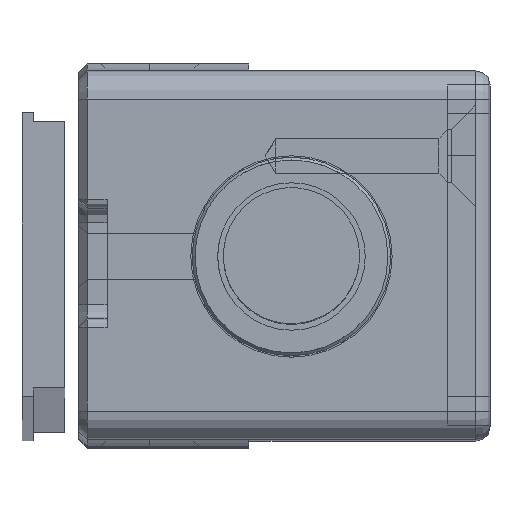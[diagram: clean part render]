
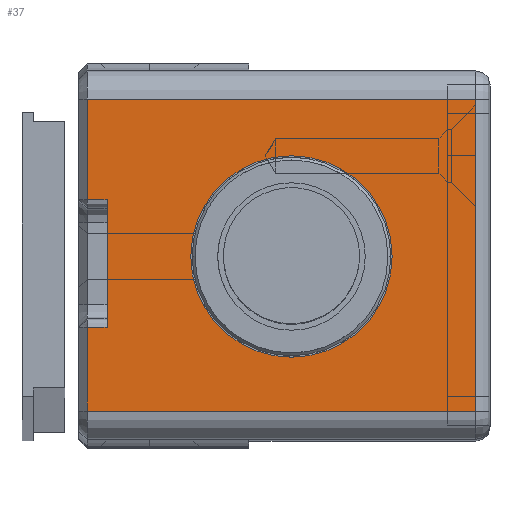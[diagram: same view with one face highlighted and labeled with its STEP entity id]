
A CAD part, top view. The second image highlights one B-rep face of the part: STEP entity #37.
In plain terms, the highlighted planar face has unit normal (0, 0, 1) as drawn and (-1, 0, 0) by its records, which use the part's own axes.
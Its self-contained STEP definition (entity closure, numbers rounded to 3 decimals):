
#37 = ADVANCED_FACE ( 'NONE', ( #8403, #148 ), #6942, .F. ) ;
#148 = FACE_OUTER_BOUND ( 'NONE', #1977, .T. ) ;
#432 = DIRECTION ( 'NONE',  ( 0., -1., 0. ) ) ;
#728 = ORIENTED_EDGE ( 'NONE', *, *, #4757, .F. ) ;
#749 = LINE ( 'NONE', #12703, #3853 ) ;
#916 = CARTESIAN_POINT ( 'NONE',  ( 0.689, 1.95, -6.25 ) ) ;
#1028 = VERTEX_POINT ( 'NONE', #7812 ) ;
#1350 = VECTOR ( 'NONE', #432, 1000. ) ;
#1550 = EDGE_CURVE ( 'NONE', #11149, #19234, #19034, .T. ) ;
#1649 = EDGE_CURVE ( 'NONE', #2263, #11149, #4012, .T. ) ;
#1756 = CARTESIAN_POINT ( 'NONE',  ( 0.689, 1.95, -6.95 ) ) ;
#1932 = EDGE_CURVE ( 'NONE', #1028, #6090, #749, .T. ) ;
#1977 = EDGE_LOOP ( 'NONE', ( #13113, #4713, #6704, #16343, #9278, #20059, #12797, #728 ) ) ;
#2000 = CARTESIAN_POINT ( 'NONE',  ( 0.689, -6.75, -6.95 ) ) ;
#2263 = VERTEX_POINT ( 'NONE', #4740 ) ;
#2423 = ORIENTED_EDGE ( 'NONE', *, *, #12888, .F. ) ;
#2909 = EDGE_CURVE ( 'NONE', #7534, #20409, #11541, .T. ) ;
#3250 = DIRECTION ( 'NONE',  ( 0., 1., 0. ) ) ;
#3853 = VECTOR ( 'NONE', #17646, 1000. ) ;
#4012 = LINE ( 'NONE', #2000, #1350 ) ;
#4546 = CARTESIAN_POINT ( 'NONE',  ( 0.689, -0.05, 0.25 ) ) ;
#4713 = ORIENTED_EDGE ( 'NONE', *, *, #1932, .T. ) ;
#4740 = CARTESIAN_POINT ( 'NONE',  ( 0.689, 5.5, -6.95 ) ) ;
#4757 = EDGE_CURVE ( 'NONE', #20414, #19234, #6732, .T. ) ;
#4805 = CARTESIAN_POINT ( 'NONE',  ( 0.689, 5.5, -7.25 ) ) ;
#5242 = DIRECTION ( 'NONE',  ( 0., 0., 1. ) ) ;
#5947 = CARTESIAN_POINT ( 'NONE',  ( 0.689, -6.75, 7.25 ) ) ;
#6090 = VERTEX_POINT ( 'NONE', #15380 ) ;
#6244 = AXIS2_PLACEMENT_3D ( 'NONE', #4546, #13261, #18105 ) ;
#6295 = EDGE_CURVE ( 'NONE', #12863, #9647, #9839, .T. ) ;
#6704 = ORIENTED_EDGE ( 'NONE', *, *, #18691, .T. ) ;
#6732 = LINE ( 'NONE', #13557, #12428 ) ;
#6942 = PLANE ( 'NONE',  #18620 ) ;
#7279 = CARTESIAN_POINT ( 'NONE',  ( 0.689, -5.5, 7.25 ) ) ;
#7479 = DIRECTION ( 'NONE',  ( 0., 0., -1. ) ) ;
#7534 = VERTEX_POINT ( 'NONE', #12982 ) ;
#7668 = CIRCLE ( 'NONE', #10498, 3.55 ) ;
#7812 = CARTESIAN_POINT ( 'NONE',  ( 0.689, -2.55, -6.95 ) ) ;
#8337 = CARTESIAN_POINT ( 'NONE',  ( 0.689, -2.55, -6.25 ) ) ;
#8403 = FACE_BOUND ( 'NONE', #13522, .T. ) ;
#8694 = CARTESIAN_POINT ( 'NONE',  ( 0.689, -0.05, 0.25 ) ) ;
#8881 = VECTOR ( 'NONE', #11963, 1000. ) ;
#9278 = ORIENTED_EDGE ( 'NONE', *, *, #12593, .T. ) ;
#9647 = VERTEX_POINT ( 'NONE', #19057 ) ;
#9839 = CIRCLE ( 'NONE', #6244, 3.55 ) ;
#10479 = CARTESIAN_POINT ( 'NONE',  ( 0.689, 5.5, 6.75 ) ) ;
#10498 = AXIS2_PLACEMENT_3D ( 'NONE', #8694, #11075, #19580 ) ;
#10858 = VECTOR ( 'NONE', #14126, 1000. ) ;
#11075 = DIRECTION ( 'NONE',  ( -1., 0., 0. ) ) ;
#11149 = VERTEX_POINT ( 'NONE', #1756 ) ;
#11220 = VECTOR ( 'NONE', #21930, 1000. ) ;
#11541 = LINE ( 'NONE', #18629, #8881 ) ;
#11596 = VECTOR ( 'NONE', #7479, 1000. ) ;
#11963 = DIRECTION ( 'NONE',  ( 0., 1., 0. ) ) ;
#12204 = LINE ( 'NONE', #19050, #11596 ) ;
#12428 = VECTOR ( 'NONE', #3250, 1000. ) ;
#12593 = EDGE_CURVE ( 'NONE', #20409, #2263, #16650, .T. ) ;
#12703 = CARTESIAN_POINT ( 'NONE',  ( 0.689, -6.75, -6.95 ) ) ;
#12797 = ORIENTED_EDGE ( 'NONE', *, *, #1550, .T. ) ;
#12863 = VERTEX_POINT ( 'NONE', #19365 ) ;
#12888 = EDGE_CURVE ( 'NONE', #9647, #12863, #7668, .T. ) ;
#12982 = CARTESIAN_POINT ( 'NONE',  ( 0.689, -5.5, 6.75 ) ) ;
#13113 = ORIENTED_EDGE ( 'NONE', *, *, #13319, .T. ) ;
#13261 = DIRECTION ( 'NONE',  ( -1., 0., 0. ) ) ;
#13319 = EDGE_CURVE ( 'NONE', #20414, #1028, #12204, .T. ) ;
#13522 = EDGE_LOOP ( 'NONE', ( #2423, #14176 ) ) ;
#13557 = CARTESIAN_POINT ( 'NONE',  ( 0.689, 1.65, -6.25 ) ) ;
#13735 = CARTESIAN_POINT ( 'NONE',  ( 0.689, 1.95, 7.25 ) ) ;
#14126 = DIRECTION ( 'NONE',  ( 0., 0., 1. ) ) ;
#14176 = ORIENTED_EDGE ( 'NONE', *, *, #6295, .F. ) ;
#15380 = CARTESIAN_POINT ( 'NONE',  ( 0.689, -5.5, -6.95 ) ) ;
#15632 = VECTOR ( 'NONE', #5242, 1000. ) ;
#16343 = ORIENTED_EDGE ( 'NONE', *, *, #2909, .T. ) ;
#16650 = LINE ( 'NONE', #4805, #11220 ) ;
#17646 = DIRECTION ( 'NONE',  ( 0., -1., 0. ) ) ;
#18105 = DIRECTION ( 'NONE',  ( 0., -1., 0. ) ) ;
#18620 = AXIS2_PLACEMENT_3D ( 'NONE', #5947, #20859, #19633 ) ;
#18629 = CARTESIAN_POINT ( 'NONE',  ( 0.689, -6.75, 6.75 ) ) ;
#18691 = EDGE_CURVE ( 'NONE', #6090, #7534, #19431, .T. ) ;
#19034 = LINE ( 'NONE', #13735, #15632 ) ;
#19050 = CARTESIAN_POINT ( 'NONE',  ( 0.689, -2.55, 7.25 ) ) ;
#19057 = CARTESIAN_POINT ( 'NONE',  ( 0.689, -3.6, 0.25 ) ) ;
#19234 = VERTEX_POINT ( 'NONE', #916 ) ;
#19365 = CARTESIAN_POINT ( 'NONE',  ( 0.689, 3.5, 0.25 ) ) ;
#19431 = LINE ( 'NONE', #7279, #10858 ) ;
#19580 = DIRECTION ( 'NONE',  ( 0., -1., 0. ) ) ;
#19633 = DIRECTION ( 'NONE',  ( 0., 1., 0. ) ) ;
#20059 = ORIENTED_EDGE ( 'NONE', *, *, #1649, .T. ) ;
#20409 = VERTEX_POINT ( 'NONE', #10479 ) ;
#20414 = VERTEX_POINT ( 'NONE', #8337 ) ;
#20859 = DIRECTION ( 'NONE',  ( 1., 0., 0. ) ) ;
#21930 = DIRECTION ( 'NONE',  ( 0., 0., -1. ) ) ;
